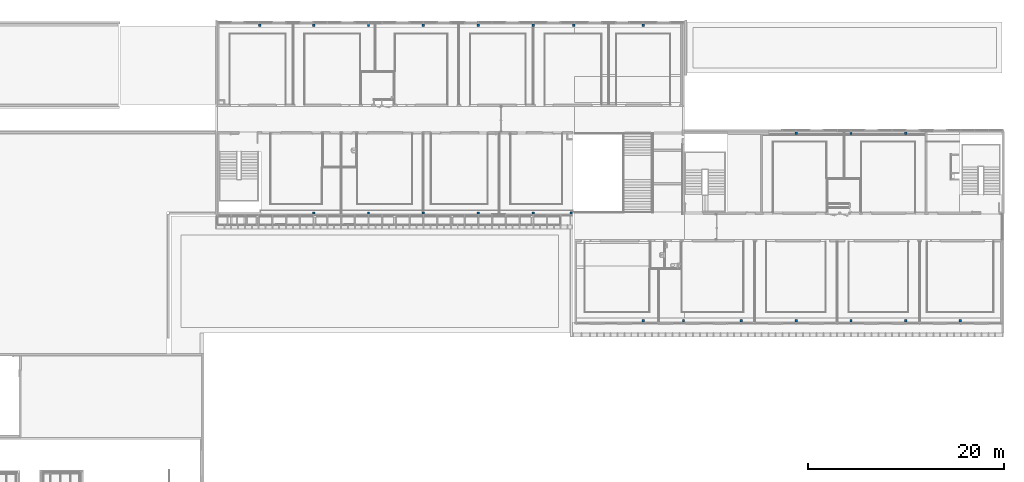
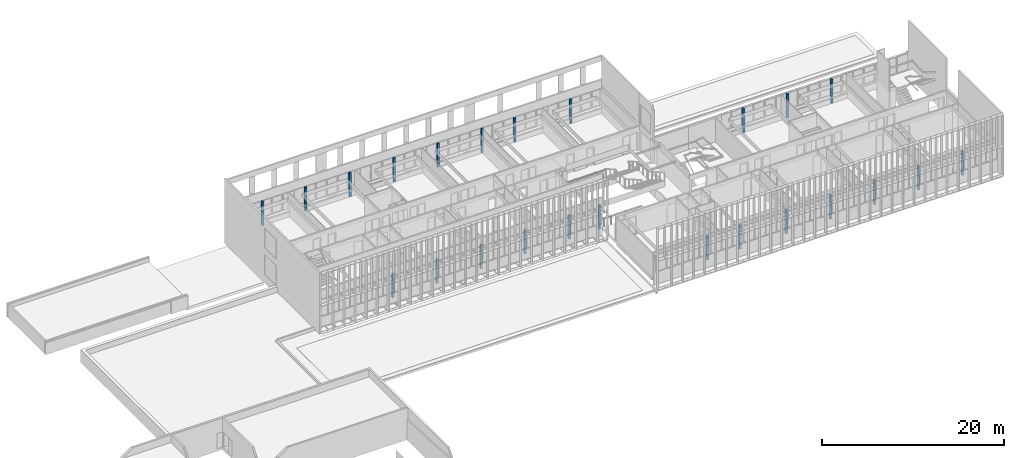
# One storey, part 1 of 106: 24 columns.
"""IFC2X3 building model written with IfcOpenShell, lengths in centimetres."""

from ifc_helpers import new_model, entity, si_unit, converted_unit, derived_unit, direction, frame, origin, origin_2d_with_axis, place, context, subcontext, project, spatial, rectangle, extrude, source, transform, mapped, material, type_object, type_shapes, element, save


model = new_model("IFC2X3")

# Units and contexts
model_context = context("Model", 3, precision=0.001, world=origin(), true_north=direction((6.12303176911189e-17, 1.0)))
body_context = subcontext(model_context, "Body", "Model", "MODEL_VIEW")
ifc_project = project(units=[si_unit("LENGTHUNIT", "METRE", prefix="CENTI"), si_unit("AREAUNIT", "SQUARE_METRE"), si_unit("VOLUMEUNIT", "CUBIC_METRE"), converted_unit("PLANEANGLEUNIT", "DEGREE", entity("IfcRatioMeasure", 0.0174532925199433), si_unit("PLANEANGLEUNIT", "RADIAN"), dimensions=[0, 0, 0, 0, 0, 0, 0]), si_unit("MASSUNIT", "GRAM", prefix="KILO"), derived_unit("MASSDENSITYUNIT", [(si_unit("MASSUNIT", "GRAM", prefix="KILO"), 1), (si_unit("LENGTHUNIT", "METRE"), -3)]), si_unit("TIMEUNIT", "SECOND"), si_unit("FREQUENCYUNIT", "HERTZ"), si_unit("THERMODYNAMICTEMPERATUREUNIT", "DEGREE_CELSIUS"), derived_unit("THERMALTRANSMITTANCEUNIT", [(si_unit("MASSUNIT", "GRAM", prefix="KILO"), 1), (si_unit("THERMODYNAMICTEMPERATUREUNIT", "KELVIN"), -1), (si_unit("TIMEUNIT", "SECOND"), -3)]), derived_unit("VOLUMETRICFLOWRATEUNIT", [(si_unit("LENGTHUNIT", "METRE"), 3), (si_unit("TIMEUNIT", "SECOND"), -1)]), si_unit("ELECTRICCURRENTUNIT", "AMPERE"), si_unit("ELECTRICVOLTAGEUNIT", "VOLT"), si_unit("POWERUNIT", "WATT"), si_unit("FORCEUNIT", "NEWTON", prefix="KILO"), si_unit("ILLUMINANCEUNIT", "LUX"), si_unit("LUMINOUSFLUXUNIT", "LUMEN"), si_unit("LUMINOUSINTENSITYUNIT", "CANDELA"), derived_unit("USERDEFINED", [(si_unit("MASSUNIT", "GRAM", prefix="KILO"), -1), (si_unit("LENGTHUNIT", "METRE"), -2), (si_unit("TIMEUNIT", "SECOND"), 3), (si_unit("LUMINOUSFLUXUNIT", "LUMEN"), 1)]), derived_unit("LINEARVELOCITYUNIT", [(si_unit("LENGTHUNIT", "METRE"), 1), (si_unit("TIMEUNIT", "SECOND"), -1)]), si_unit("PRESSUREUNIT", "PASCAL"), derived_unit("USERDEFINED", [(si_unit("LENGTHUNIT", "METRE"), -2), (si_unit("MASSUNIT", "GRAM", prefix="KILO"), 1), (si_unit("TIMEUNIT", "SECOND"), -2)])], contexts=[model_context])

# Site, building, storey
site_placement = place(None, frame((-2781.94577612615, 7442.24238424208, 0.0)))
site = spatial("IfcSite", under=ifc_project, at=site_placement, Name="Default", CompositionType="ELEMENT")
building_placement = place(site_placement, origin())
building = spatial("IfcBuilding", under=site, at=building_placement, CompositionType="ELEMENT")
storey_placement = place(building_placement, frame((0.0, 0.0, 422.0)))
storey = spatial("IfcBuildingStorey", under=building, at=storey_placement, Name="Toiture - Cuisine", CompositionType="ELEMENT", Elevation=421.999999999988)

# Columns
ifc_material = material(Name="Maçonnerie - Béton coulé sur place")
column_type = type_object("IfcColumnType", Name="250mm x 250mm", PredefinedType="COLUMN")
shared_shape = source(origin(), body_context, "Body", "SweptSolid", [
    extrude(rectangle(XDim=25.0, YDim=25.0, at=origin_2d_with_axis()), frame((0.0, 0.0, 422.0), z_axis=(0.0, 0.0, 1.0), x_axis=(0.0, -1.0, 0.0)), (0.0, 0.0, 1.0), 321.0),
])
type_shapes(column_type, [shared_shape])
column_placement = place(building_placement, frame((-7976.49987760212, -2.49999999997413, 0.0)))
element("IfcColumn", 1, at=column_placement, inside=storey, type_object=column_type, material=ifc_material, Name="Poteau béton - Carré:250mm x 250mm", ObjectType="Poteau béton - Carré:250mm x 250mm", context=body_context, shape_type="MappedRepresentation", body=[
    mapped(shared_shape, transform((0.0, 0.0, 0.0), scale=1.0)),
])
for number, where, z_axis, x_axis in (
    (2, (-7429.50004166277, -2.49999999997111, 0.0), (0.0, 0.0, 1.0), (0.0, 1.0, 0.0)),
    (3, (-6309.50004166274, -2.49999999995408, 0.0), (0.0, 0.0, 1.0), (0.0, 1.0, 0.0)),
    (4, (-5749.49988166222, -2.49999999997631, 0.0), (0.0, 0.0, 1.0), (0.0, 1.0, 0.0)),
):
    element("IfcColumn", number, at=place(building_placement, frame(where, z_axis=z_axis, x_axis=x_axis)), inside=storey, type_object=column_type, material=ifc_material, Name="Poteau béton - Carré:250mm x 250mm", ObjectType="Poteau béton - Carré:250mm x 250mm", context=body_context, shape_type="MappedRepresentation", body=[
        mapped(shared_shape, transform((0.0, 0.0, 0.0), scale=1.0)),
    ])
for number, where in (
    (5, (-5189.50004166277, -2.499999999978, 0.0)),
    (6, (-6869.50004166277, -2.49999999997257, 0.0)),
    (7, (-7429.50004166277, -1917.57903364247, 0.0)),
    (8, (-6869.50004166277, -1917.57903364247, 0.0)),
    (9, (-6309.50004166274, -1917.57903364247, 0.0)),
    (10, (-5749.49988166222, -1917.57903364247, 0.0)),
    (11, (-5189.50004166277, -1917.57903364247, 0.0)),
    (12, (-3069.99987760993, -3017.81349958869, 0.0)),
    (13, (-2509.99987760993, -3017.81349958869, 0.0)),
    (14, (-1949.99987760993, -3017.8134995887, 0.0)),
    (15, (-1389.99987760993, -3017.8134995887, 0.0)),
    (16, (-835.299882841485, -3017.8134995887, 0.0)),
    (17, (-3657.99987968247, -3017.81349958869, 0.0)),
    (18, (-4069.50004159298, -3017.81349958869, 0.0)),
    (19, (-4777.99987760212, -2.49999999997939, 0.0)),
    (20, (-4069.50004159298, -2.49999999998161, 0.0)),
    (21, (-2509.99987760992, -1102.49999990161, 0.0)),
    (22, (-1949.99987760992, -1102.49999990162, 0.0)),
    (23, (-1389.99987760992, -1102.49999990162, 0.0)),
    (24, (-4804.49987760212, -1917.57903364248, 0.0)),
):
    element("IfcColumn", number, at=place(building_placement, frame(where)), inside=storey, type_object=column_type, material=ifc_material, Name="Poteau béton - Carré:250mm x 250mm", ObjectType="Poteau béton - Carré:250mm x 250mm", context=body_context, shape_type="MappedRepresentation", body=[
        mapped(shared_shape, transform((0.0, 0.0, 0.0), scale=1.0)),
    ])

save(model, "model.ifc")
